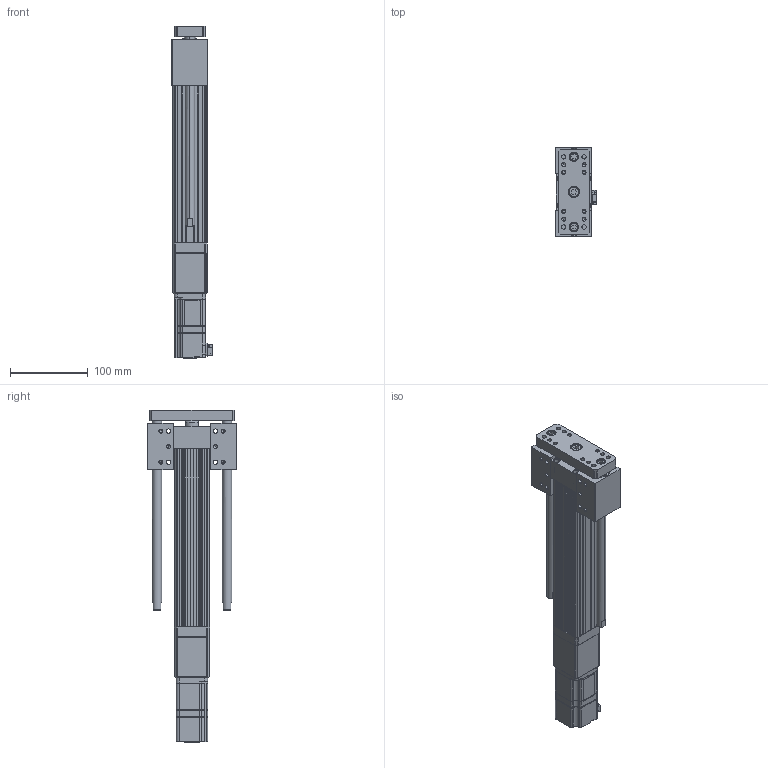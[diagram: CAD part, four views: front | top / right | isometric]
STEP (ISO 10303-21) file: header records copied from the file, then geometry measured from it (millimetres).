
FILE_DESCRIPTION (( 'STEP AP203' ), '1' );
FILE_NAME ('ANS045-HS150-05(10)-W10.STEP', '2019-02-14T03:00:11', ( 'user' ), ( '' ), 'SwSTEP 2.0', 'SolidWorks 2013', '' );
FILE_SCHEMA (( 'CONFIG_CONTROL_DESIGN' ));
Length unit declared in the file: millimetre
Products named in the file (4): ANS045 ROD ST150 H; SGMJV_01A_A21; ANS045-HS150-05(10)-W10; ANS045 HS150 VER2
Assembly tree (3 placements, depth 2):
  ANS045-HS150-05(10)-W10
    ANS045 HS150 VER2
    ANS045 ROD ST150 H
    SGMJV_01A_A21
Bounding box: 52.3 x 115 x 426.1 mm (x, y, z)
Volume: 832090.9 mm3; surface area: 223111.8 mm2
Topology: 3 solids, 7 shells, 1067 faces, 2681 edges, 1678 vertices
Faces by surface type: plane 542, cylinder 373, cone 150, bspline 2
Entity records: 31939 total; most frequent: CARTESIAN_POINT 5908, DIRECTION 5389, ORIENTED_EDGE 5290, EDGE_CURVE 2645, AXIS2_PLACEMENT_3D 1825, VECTOR 1739, LINE 1739, VERTEX_POINT 1678
